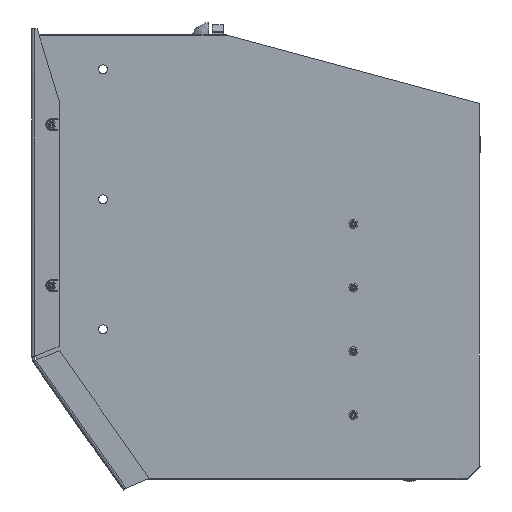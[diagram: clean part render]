
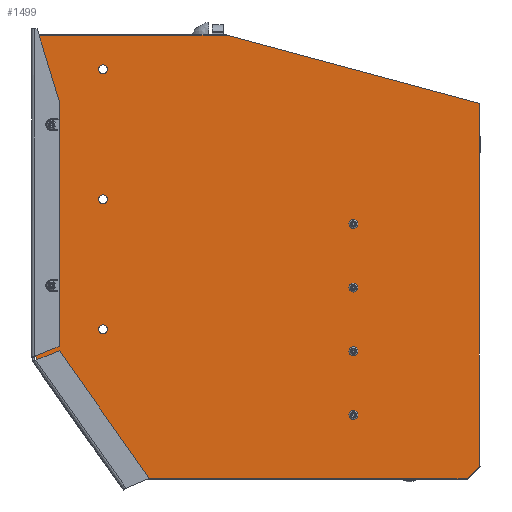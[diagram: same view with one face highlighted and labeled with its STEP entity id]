
A CAD part, left-side view. The second image highlights one B-rep face of the part: STEP entity #1499.
In plain terms, the highlighted planar face has unit normal (-1, 0, 0) as drawn and (0, 0, 1) by its records, which use the part's own axes.
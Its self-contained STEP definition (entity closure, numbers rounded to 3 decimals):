
#1005=CARTESIAN_POINT('',(-49.506,-149.327,2.0));
#1006=VERTEX_POINT('',#1005);
#1007=CARTESIAN_POINT('',(-53.006,-149.327,2.));
#1008=DIRECTION('',(0.0,0.0,-1.0));
#1009=DIRECTION('',(1.0,0.0,0.0));
#1010=AXIS2_PLACEMENT_3D('',#1007,#1008,#1009);
#1011=CIRCLE('',#1010,3.5);
#1012=EDGE_CURVE('',#1006,#1006,#1011,.T.);
#1033=CARTESIAN_POINT('',(-142.506,-149.327,2.0));
#1034=VERTEX_POINT('',#1033);
#1035=CARTESIAN_POINT('',(-146.006,-149.327,2.));
#1036=DIRECTION('',(0.0,0.0,-1.0));
#1037=DIRECTION('',(1.0,0.0,0.0));
#1038=AXIS2_PLACEMENT_3D('',#1035,#1036,#1037);
#1039=CIRCLE('',#1038,3.5);
#1040=EDGE_CURVE('',#1034,#1034,#1039,.T.);
#1061=CARTESIAN_POINT('',(43.494,-149.327,2.0));
#1062=VERTEX_POINT('',#1061);
#1063=CARTESIAN_POINT('',(39.994,-149.327,2.));
#1064=DIRECTION('',(0.0,0.0,-1.0));
#1065=DIRECTION('',(1.0,0.0,0.0));
#1066=AXIS2_PLACEMENT_3D('',#1063,#1064,#1065);
#1067=CIRCLE('',#1066,3.5);
#1068=EDGE_CURVE('',#1062,#1062,#1067,.T.);
#1089=CARTESIAN_POINT('',(-235.506,-149.327,2.0));
#1090=VERTEX_POINT('',#1089);
#1091=CARTESIAN_POINT('',(-239.006,-149.327,2.));
#1092=DIRECTION('',(0.0,0.0,-1.0));
#1093=DIRECTION('',(1.0,0.0,0.0));
#1094=AXIS2_PLACEMENT_3D('',#1091,#1092,#1093);
#1095=CIRCLE('',#1094,3.5);
#1096=EDGE_CURVE('',#1090,#1090,#1095,.T.);
#1117=CARTESIAN_POINT('',(82.494,216.673,2.0));
#1118=VERTEX_POINT('',#1117);
#1119=CARTESIAN_POINT('',(75.994,216.673,2.));
#1120=DIRECTION('',(0.0,0.0,-1.0));
#1121=DIRECTION('',(1.0,0.0,0.0));
#1122=AXIS2_PLACEMENT_3D('',#1119,#1120,#1121);
#1123=CIRCLE('',#1122,6.5);
#1124=EDGE_CURVE('',#1118,#1118,#1123,.T.);
#1145=CARTESIAN_POINT('',(272.494,216.673,2.0));
#1146=VERTEX_POINT('',#1145);
#1147=CARTESIAN_POINT('',(265.994,216.673,2.));
#1148=DIRECTION('',(0.0,0.0,-1.0));
#1149=DIRECTION('',(1.0,0.0,0.0));
#1150=AXIS2_PLACEMENT_3D('',#1147,#1148,#1149);
#1151=CIRCLE('',#1150,6.5);
#1152=EDGE_CURVE('',#1146,#1146,#1151,.T.);
#1173=CARTESIAN_POINT('',(-107.506,216.673,2.0));
#1174=VERTEX_POINT('',#1173);
#1175=CARTESIAN_POINT('',(-114.006,216.673,2.));
#1176=DIRECTION('',(0.0,0.0,-1.0));
#1177=DIRECTION('',(1.0,0.0,0.0));
#1178=AXIS2_PLACEMENT_3D('',#1175,#1176,#1177);
#1179=CIRCLE('',#1178,6.5);
#1180=EDGE_CURVE('',#1174,#1174,#1179,.T.);
#1201=CARTESIAN_POINT('',(188.494,291.673,2.0));
#1202=VERTEX_POINT('',#1201);
#1203=CARTESIAN_POINT('',(184.994,291.673,2.));
#1204=DIRECTION('',(0.0,0.0,-1.0));
#1205=DIRECTION('',(1.0,0.0,0.0));
#1206=AXIS2_PLACEMENT_3D('',#1203,#1204,#1205);
#1207=CIRCLE('',#1206,3.5);
#1208=EDGE_CURVE('',#1202,#1202,#1207,.T.);
#1229=CARTESIAN_POINT('',(-46.506,291.673,2.0));
#1230=VERTEX_POINT('',#1229);
#1231=CARTESIAN_POINT('',(-50.006,291.673,2.));
#1232=DIRECTION('',(0.0,0.0,-1.0));
#1233=DIRECTION('',(1.0,0.0,0.0));
#1234=AXIS2_PLACEMENT_3D('',#1231,#1232,#1233);
#1235=CIRCLE('',#1234,3.5);
#1236=EDGE_CURVE('',#1230,#1230,#1235,.T.);
#1246=CARTESIAN_POINT('',(-152.006,316.673,2.0));
#1247=VERTEX_POINT('',#1246);
#1248=CARTESIAN_POINT('',(315.994,316.673,2.0));
#1249=VERTEX_POINT('',#1248);
#1250=CARTESIAN_POINT('',(-152.006,316.673,2.0));
#1251=DIRECTION('',(1.0,0.0,0.0));
#1252=VECTOR('',#1251,468.0);
#1253=LINE('',#1250,#1252);
#1254=EDGE_CURVE('',#1247,#1249,#1253,.T.);
#1286=CARTESIAN_POINT('',(315.994,36.673,2.0));
#1287=VERTEX_POINT('',#1286);
#1288=CARTESIAN_POINT('',(315.994,316.673,2.0));
#1289=DIRECTION('',(0.0,-1.0,0.0));
#1290=VECTOR('',#1289,280.0);
#1291=LINE('',#1288,#1290);
#1292=EDGE_CURVE('',#1249,#1287,#1291,.T.);
#1317=CARTESIAN_POINT('',(215.994,-333.327,2.0));
#1318=VERTEX_POINT('',#1317);
#1319=CARTESIAN_POINT('',(315.994,36.673,2.0));
#1320=DIRECTION('',(-0.261,-0.965,0.0));
#1321=VECTOR('',#1320,383.275);
#1322=LINE('',#1319,#1321);
#1323=EDGE_CURVE('',#1287,#1318,#1322,.T.);
#1348=CARTESIAN_POINT('',(-314.006,-333.327,2.0));
#1349=VERTEX_POINT('',#1348);
#1350=CARTESIAN_POINT('',(215.994,-333.327,2.0));
#1351=DIRECTION('',(-1.0,0.0,0.0));
#1352=VECTOR('',#1351,530.);
#1353=LINE('',#1350,#1352);
#1354=EDGE_CURVE('',#1318,#1349,#1353,.T.);
#1379=CARTESIAN_POINT('',(-332.006,-315.327,2.0));
#1380=VERTEX_POINT('',#1379);
#1381=CARTESIAN_POINT('',(-314.006,-333.327,2.0));
#1382=DIRECTION('',(-0.707,0.707,0.0));
#1383=VECTOR('',#1382,25.456);
#1384=LINE('',#1381,#1383);
#1385=EDGE_CURVE('',#1349,#1380,#1384,.T.);
#1410=CARTESIAN_POINT('',(-332.006,166.673,2.0));
#1411=VERTEX_POINT('',#1410);
#1412=CARTESIAN_POINT('',(-332.006,-315.327,2.0));
#1413=DIRECTION('',(0.0,1.0,0.0));
#1414=VECTOR('',#1413,482.0);
#1415=LINE('',#1412,#1414);
#1416=EDGE_CURVE('',#1380,#1411,#1415,.T.);
#1441=CARTESIAN_POINT('',(-332.006,166.673,2.0));
#1442=DIRECTION('',(0.768,0.64,0.0));
#1443=VECTOR('',#1442,234.307);
#1444=LINE('',#1441,#1443);
#1445=EDGE_CURVE('',#1411,#1247,#1444,.T.);
#1458=CARTESIAN_POINT('',(-9.208,-9.695,2.0));
#1459=DIRECTION('',(0.0,0.0,1.0));
#1460=DIRECTION('',(1.0,0.0,0.0));
#1461=AXIS2_PLACEMENT_3D('',#1458,#1459,#1460);
#1462=PLANE('',#1461);
#1463=ORIENTED_EDGE('',*,*,#1254,.F.);
#1464=ORIENTED_EDGE('',*,*,#1445,.F.);
#1465=ORIENTED_EDGE('',*,*,#1416,.F.);
#1466=ORIENTED_EDGE('',*,*,#1385,.F.);
#1467=ORIENTED_EDGE('',*,*,#1354,.F.);
#1468=ORIENTED_EDGE('',*,*,#1323,.F.);
#1469=ORIENTED_EDGE('',*,*,#1292,.F.);
#1470=EDGE_LOOP('',(#1463,#1464,#1465,#1466,#1467,#1468,#1469));
#1471=FACE_OUTER_BOUND('',#1470,.T.);
#1472=ORIENTED_EDGE('',*,*,#1012,.T.);
#1473=EDGE_LOOP('',(#1472));
#1474=FACE_BOUND('',#1473,.T.);
#1475=ORIENTED_EDGE('',*,*,#1040,.T.);
#1476=EDGE_LOOP('',(#1475));
#1477=FACE_BOUND('',#1476,.T.);
#1478=ORIENTED_EDGE('',*,*,#1068,.T.);
#1479=EDGE_LOOP('',(#1478));
#1480=FACE_BOUND('',#1479,.T.);
#1481=ORIENTED_EDGE('',*,*,#1096,.T.);
#1482=EDGE_LOOP('',(#1481));
#1483=FACE_BOUND('',#1482,.T.);
#1484=ORIENTED_EDGE('',*,*,#1124,.T.);
#1485=EDGE_LOOP('',(#1484));
#1486=FACE_BOUND('',#1485,.T.);
#1487=ORIENTED_EDGE('',*,*,#1152,.T.);
#1488=EDGE_LOOP('',(#1487));
#1489=FACE_BOUND('',#1488,.T.);
#1490=ORIENTED_EDGE('',*,*,#1180,.T.);
#1491=EDGE_LOOP('',(#1490));
#1492=FACE_BOUND('',#1491,.T.);
#1493=ORIENTED_EDGE('',*,*,#1208,.T.);
#1494=EDGE_LOOP('',(#1493));
#1495=FACE_BOUND('',#1494,.T.);
#1496=ORIENTED_EDGE('',*,*,#1236,.T.);
#1497=EDGE_LOOP('',(#1496));
#1498=FACE_BOUND('',#1497,.T.);
#1499=ADVANCED_FACE('',(#1471,#1474,#1477,#1480,#1483,#1486,#1489,#1492,#1495,#1498),#1462,.T.);
